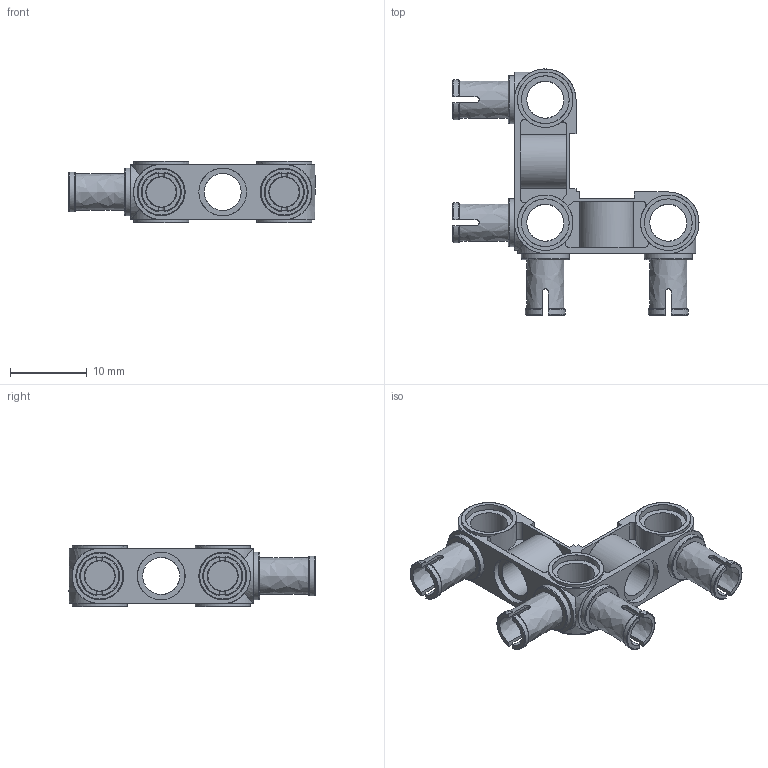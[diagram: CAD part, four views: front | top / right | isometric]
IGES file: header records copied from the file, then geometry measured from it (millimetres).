
Start section: C
Global section: file name: ClGray_4296059_AVV.iges; native system: By Siemens PLM Incorporated; preprocessor: XPlus GENERIC/IGES 26.1.183; author: Author; organization: Title; date: 20250721.235505; units: millimetre
Bounding box: 32 x 32 x 8 mm (x, y, z)
Surface area: 2947.6 mm2 (no closed solid volume)
Topology: 0 solids, 0 shells, 189 faces, 1390 edges, 1390 vertices
Faces by surface type: bspline 189
